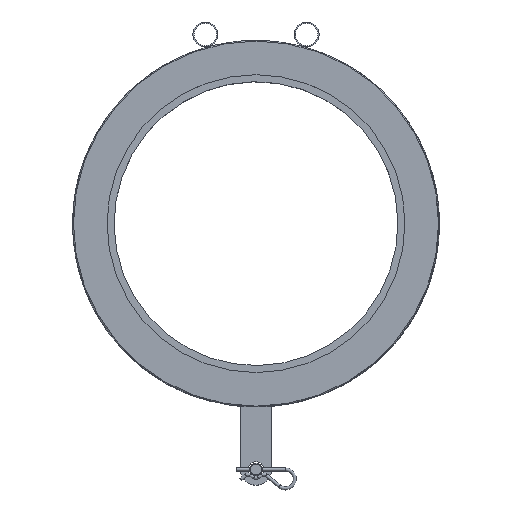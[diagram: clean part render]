
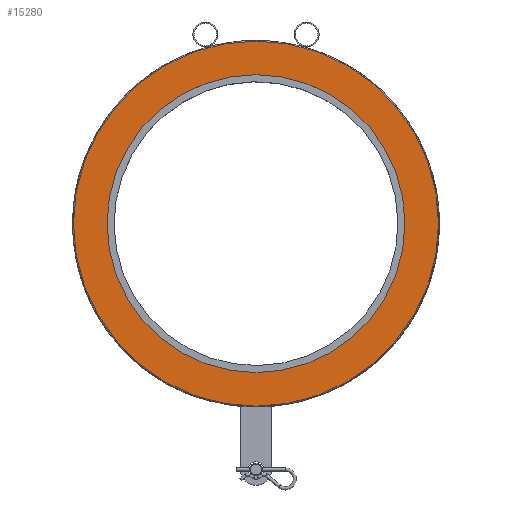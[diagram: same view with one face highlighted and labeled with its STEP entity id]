
A CAD part, top view. The second image highlights one B-rep face of the part: STEP entity #15280.
In plain terms, the highlighted planar face has unit normal (0, 0, 1).
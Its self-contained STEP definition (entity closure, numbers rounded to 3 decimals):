
#486=FACE_BOUND('',#3344,.T.);
#1614=PLANE('',#16129);
#2430=FACE_OUTER_BOUND('',#3343,.T.);
#3343=EDGE_LOOP('',(#14042));
#3344=EDGE_LOOP('',(#14043));
#5902=CIRCLE('',#16125,190.5);
#5903=CIRCLE('',#16127,233.5);
#7389=VERTEX_POINT('',#35828);
#7390=VERTEX_POINT('',#35832);
#9621=EDGE_CURVE('',#7389,#7389,#5902,.T.);
#9623=EDGE_CURVE('',#7390,#7390,#5903,.T.);
#14042=ORIENTED_EDGE('',*,*,#9623,.F.);
#14043=ORIENTED_EDGE('',*,*,#9621,.T.);
#15280=ADVANCED_FACE('',(#2430,#486),#1614,.T.);
#16125=AXIS2_PLACEMENT_3D('',#35829,#18799,#18800);
#16127=AXIS2_PLACEMENT_3D('',#35833,#18804,#18805);
#16129=AXIS2_PLACEMENT_3D('',#35836,#18809,#18810);
#18799=DIRECTION('center_axis',(0.,0.,
-1.));
#18800=DIRECTION('ref_axis',(-1.,0.,0.));
#18804=DIRECTION('center_axis',(0.,0.,
-1.));
#18805=DIRECTION('ref_axis',(-1.,0.,0.));
#18809=DIRECTION('center_axis',(0.,0.,
1.));
#18810=DIRECTION('ref_axis',(-1.,0.,0.));
#35828=CARTESIAN_POINT('',(190.5,0.,112.));
#35829=CARTESIAN_POINT('Origin',(0.,0.,
112.));
#35832=CARTESIAN_POINT('',(233.5,0.,112.));
#35833=CARTESIAN_POINT('Origin',(0.,0.,
112.));
#35836=CARTESIAN_POINT('Origin',(0.,0.,
112.));
